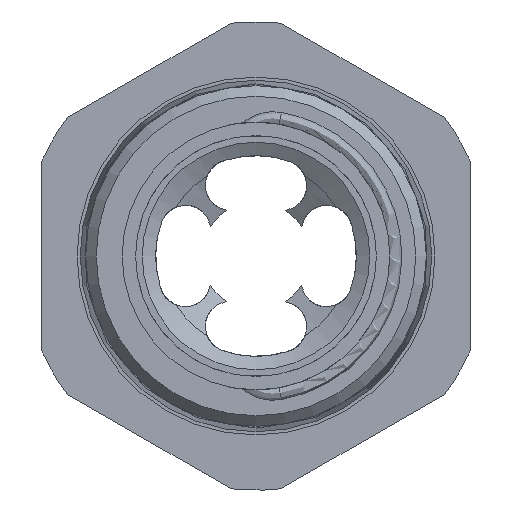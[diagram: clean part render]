
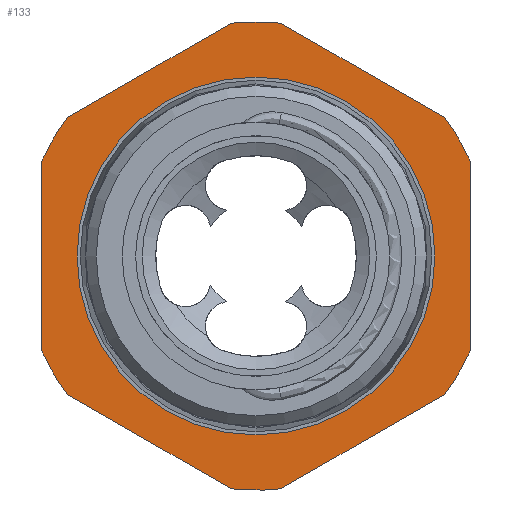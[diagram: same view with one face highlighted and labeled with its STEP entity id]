
A CAD part, front view. The second image highlights one B-rep face of the part: STEP entity #133.
In plain terms, the highlighted planar face has unit normal (0, -1, 0).
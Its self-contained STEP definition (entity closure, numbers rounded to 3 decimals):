
#133 = ADVANCED_FACE( '', ( #327, #328 ), #329, .F. );
#327 = FACE_BOUND( '', #575, .T. );
#328 = FACE_OUTER_BOUND( '', #576, .T. );
#329 = PLANE( '', #577 );
#575 = EDGE_LOOP( '', ( #1145 ) );
#576 = EDGE_LOOP( '', ( #1146, #1147, #1148, #1149, #1150, #1151, #1152, #1153, #1154, #1155, #1156, #1157 ) );
#577 = AXIS2_PLACEMENT_3D( '', #1158, #1159, #1160 );
#1145 = ORIENTED_EDGE( '', *, *, #1524, .F. );
#1146 = ORIENTED_EDGE( '', *, *, #1525, .T. );
#1147 = ORIENTED_EDGE( '', *, *, #1496, .T. );
#1148 = ORIENTED_EDGE( '', *, *, #1526, .T. );
#1149 = ORIENTED_EDGE( '', *, *, #1492, .T. );
#1150 = ORIENTED_EDGE( '', *, *, #1527, .T. );
#1151 = ORIENTED_EDGE( '', *, *, #1500, .T. );
#1152 = ORIENTED_EDGE( '', *, *, #1523, .T. );
#1153 = ORIENTED_EDGE( '', *, *, #1504, .T. );
#1154 = ORIENTED_EDGE( '', *, *, #1522, .T. );
#1155 = ORIENTED_EDGE( '', *, *, #1508, .T. );
#1156 = ORIENTED_EDGE( '', *, *, #1514, .T. );
#1157 = ORIENTED_EDGE( '', *, *, #1512, .T. );
#1158 = CARTESIAN_POINT( '', ( 17.5, 20., 0. ) );
#1159 = DIRECTION( '', ( 0., 1., 0. ) );
#1160 = DIRECTION( '', ( 0., 0., 1. ) );
#1492 = EDGE_CURVE( '', #1818, #1816, #1819, .T. );
#1496 = EDGE_CURVE( '', #1826, #1824, #1827, .T. );
#1500 = EDGE_CURVE( '', #1834, #1832, #1835, .T. );
#1504 = EDGE_CURVE( '', #1842, #1840, #1843, .T. );
#1508 = EDGE_CURVE( '', #1850, #1848, #1851, .T. );
#1512 = EDGE_CURVE( '', #1858, #1856, #1859, .T. );
#1514 = EDGE_CURVE( '', #1848, #1858, #1861, .T. );
#1522 = EDGE_CURVE( '', #1840, #1850, #1870, .T. );
#1523 = EDGE_CURVE( '', #1832, #1842, #1871, .T. );
#1524 = EDGE_CURVE( '', #1872, #1872, #1873, .T. );
#1525 = EDGE_CURVE( '', #1856, #1826, #1874, .T. );
#1526 = EDGE_CURVE( '', #1824, #1818, #1875, .T. );
#1527 = EDGE_CURVE( '', #1816, #1834, #1876, .T. );
#1816 = VERTEX_POINT( '', #4358 );
#1818 = VERTEX_POINT( '', #4361 );
#1819 = LINE( '', #4362, #4363 );
#1824 = VERTEX_POINT( '', #4370 );
#1826 = VERTEX_POINT( '', #4373 );
#1827 = LINE( '', #4374, #4375 );
#1832 = VERTEX_POINT( '', #4382 );
#1834 = VERTEX_POINT( '', #4385 );
#1835 = LINE( '', #4386, #4387 );
#1840 = VERTEX_POINT( '', #4394 );
#1842 = VERTEX_POINT( '', #4397 );
#1843 = LINE( '', #4398, #4399 );
#1848 = VERTEX_POINT( '', #4406 );
#1850 = VERTEX_POINT( '', #4409 );
#1851 = LINE( '', #4410, #4411 );
#1856 = VERTEX_POINT( '', #4418 );
#1858 = VERTEX_POINT( '', #4421 );
#1859 = LINE( '', #4422, #4423 );
#1861 = CIRCLE( '', #4426, 17.5 );
#1870 = CIRCLE( '', #4435, 17.5 );
#1871 = CIRCLE( '', #4436, 17.5 );
#1872 = VERTEX_POINT( '', #4437 );
#1873 = CIRCLE( '', #4438, 13.375 );
#1874 = CIRCLE( '', #4439, 17.5 );
#1875 = CIRCLE( '', #4440, 17.5 );
#1876 = CIRCLE( '', #4441, 17.5 );
#4358 = CARTESIAN_POINT( '', ( -1.861, 20., -17.401 ) );
#4361 = CARTESIAN_POINT( '', ( -14.139, 20., -10.312 ) );
#4362 = CARTESIAN_POINT( '', ( 5.125, 20., -21.434 ) );
#4363 = VECTOR( '', #4704, 1000. );
#4370 = CARTESIAN_POINT( '', ( -16., 20., -7.089 ) );
#4373 = CARTESIAN_POINT( '', ( -16., 20., 7.089 ) );
#4374 = CARTESIAN_POINT( '', ( -16., 20., 0. ) );
#4375 = VECTOR( '', #4708, 1000. );
#4382 = CARTESIAN_POINT( '', ( 14.139, 20., -10.312 ) );
#4385 = CARTESIAN_POINT( '', ( 1.861, 20., -17.401 ) );
#4386 = CARTESIAN_POINT( '', ( 21.125, 20., -6.279 ) );
#4387 = VECTOR( '', #4712, 1000. );
#4394 = CARTESIAN_POINT( '', ( 16., 20., 7.089 ) );
#4397 = CARTESIAN_POINT( '', ( 16., 20., -7.089 ) );
#4398 = CARTESIAN_POINT( '', ( 16., 20., 0. ) );
#4399 = VECTOR( '', #4716, 1000. );
#4406 = CARTESIAN_POINT( '', ( 1.861, 20., 17.401 ) );
#4409 = CARTESIAN_POINT( '', ( 14.139, 20., 10.312 ) );
#4410 = CARTESIAN_POINT( '', ( 21.125, 20., 6.279 ) );
#4411 = VECTOR( '', #4720, 1000. );
#4418 = CARTESIAN_POINT( '', ( -14.139, 20., 10.312 ) );
#4421 = CARTESIAN_POINT( '', ( -1.861, 20., 17.401 ) );
#4422 = CARTESIAN_POINT( '', ( 5.125, 20., 21.434 ) );
#4423 = VECTOR( '', #4724, 1000. );
#4426 = AXIS2_PLACEMENT_3D( '', #4726, #4727, #4728 );
#4435 = AXIS2_PLACEMENT_3D( '', #4750, #4751, #4752 );
#4436 = AXIS2_PLACEMENT_3D( '', #4753, #4754, #4755 );
#4437 = CARTESIAN_POINT( '', ( 0., 20., -13.375 ) );
#4438 = AXIS2_PLACEMENT_3D( '', #4756, #4757, #4758 );
#4439 = AXIS2_PLACEMENT_3D( '', #4759, #4760, #4761 );
#4440 = AXIS2_PLACEMENT_3D( '', #4762, #4763, #4764 );
#4441 = AXIS2_PLACEMENT_3D( '', #4765, #4766, #4767 );
#4704 = DIRECTION( '', ( 0.866, 0., -0.5 ) );
#4708 = DIRECTION( '', ( 0., 0., -1. ) );
#4712 = DIRECTION( '', ( 0.866, 0., 0.5 ) );
#4716 = DIRECTION( '', ( 0., 0., 1. ) );
#4720 = DIRECTION( '', ( -0.866, 0., 0.5 ) );
#4724 = DIRECTION( '', ( -0.866, 0., -0.5 ) );
#4726 = CARTESIAN_POINT( '', ( 0., 20., 0. ) );
#4727 = DIRECTION( '', ( 0., -1., 0. ) );
#4728 = DIRECTION( '', ( 0., 0., -1. ) );
#4750 = CARTESIAN_POINT( '', ( 0., 20., 0. ) );
#4751 = DIRECTION( '', ( 0., -1., 0. ) );
#4752 = DIRECTION( '', ( 0., 0., -1. ) );
#4753 = CARTESIAN_POINT( '', ( 0., 20., 0. ) );
#4754 = DIRECTION( '', ( 0., -1., 0. ) );
#4755 = DIRECTION( '', ( 0., 0., -1. ) );
#4756 = CARTESIAN_POINT( '', ( 0., 20., 0. ) );
#4757 = DIRECTION( '', ( 0., -1., 0. ) );
#4758 = DIRECTION( '', ( 0., 0., -1. ) );
#4759 = CARTESIAN_POINT( '', ( 0., 20., 0. ) );
#4760 = DIRECTION( '', ( 0., -1., 0. ) );
#4761 = DIRECTION( '', ( 0., 0., -1. ) );
#4762 = CARTESIAN_POINT( '', ( 0., 20., 0. ) );
#4763 = DIRECTION( '', ( 0., -1., 0. ) );
#4764 = DIRECTION( '', ( 0., 0., -1. ) );
#4765 = CARTESIAN_POINT( '', ( 0., 20., 0. ) );
#4766 = DIRECTION( '', ( 0., -1., 0. ) );
#4767 = DIRECTION( '', ( 0., 0., -1. ) );
